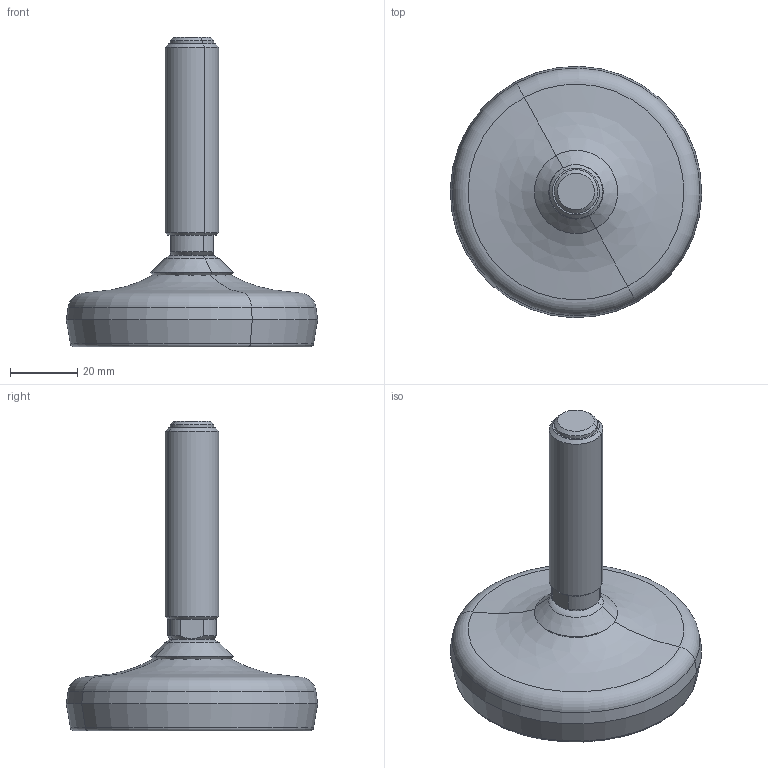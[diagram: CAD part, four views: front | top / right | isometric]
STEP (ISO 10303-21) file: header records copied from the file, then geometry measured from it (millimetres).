
FILE_DESCRIPTION(('CATIA V5 STEP Exchange'),'2;1');
FILE_NAME('X:\CODICI MOVEX\3D per clienti\Werfring\P92301.stp','2012-07-23T13:38:23+00:00',('none'),('none'),'CATIA Version 5 Release 20 GA (IN-10)','CATIA V5 STEP AP203','none');
FILE_SCHEMA(('CONFIG_CONTROL_DESIGN'));
Length unit declared in the file: millimetre
Products named in the file (1): Prodotto1
Assembly tree (3 placements, depth 2):
  Prodotto1
    #58
    #1035
    #2083
Bounding box: 74.98 x 74.98 x 92.27 mm (x, y, z)
Volume: 87567.3 mm3; surface area: 28380.3 mm2
Topology: 4 solids, 4 shells, 99 faces, 197 edges, 117 vertices
Faces by surface type: cone 34, plane 23, cylinder 18, torus 18, revolution 6
Entity records: 2407 total; most frequent: CARTESIAN_POINT 419, ORIENTED_EDGE 394, DIRECTION 328, AXIS2_PLACEMENT_3D 204, EDGE_CURVE 197, CIRCLE 139, VERTEX_POINT 117, EDGE_LOOP 114
